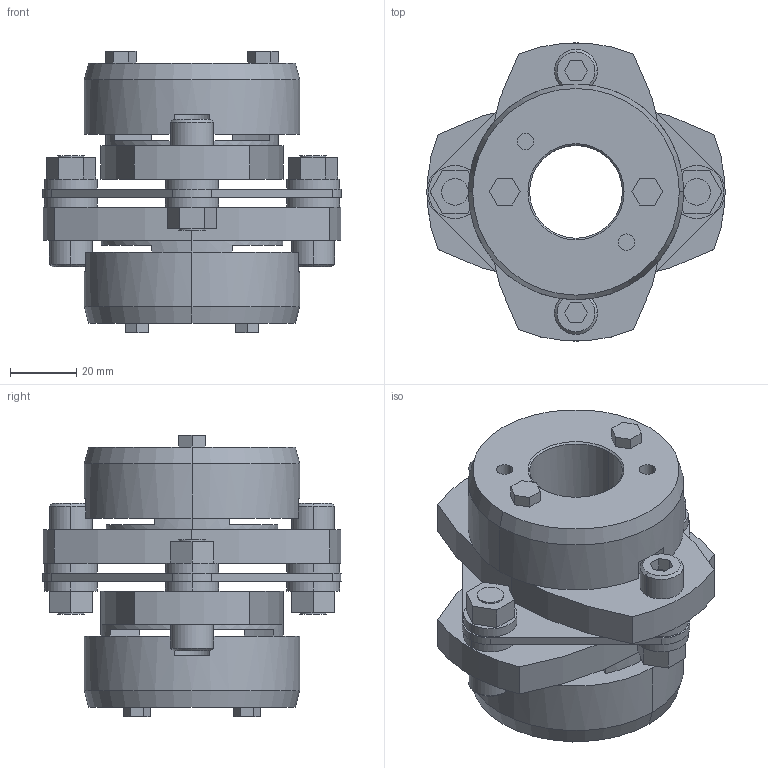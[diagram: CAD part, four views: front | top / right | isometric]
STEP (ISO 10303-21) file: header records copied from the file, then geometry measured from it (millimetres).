
FILE_DESCRIPTION((''),'2;1');
FILE_NAME('LCS-90T7-28×35.stp','2015-11-01T20:22:06',(''),(''),'AutoCAD STEP 2000i','AutoCAD 2000i',', , ');
FILE_SCHEMA(('CONFIG_CONTROL_DESIGN'));
Length unit declared in the file: millimetre
Products named in the file (13): LCS-90T7-30×35; 忣兜1; LC90T7-T035; LC90T7-T032; LC90T7-T030-1; LC90T7-T030; LC90T7-T025-1; LC90T7-T025; LC90T7-T019-1; LC90T7-T019; LC90-B019-1; LC90-B019; LCS90-ITA
Assembly tree (12 placements, depth 2):
  LCS-90T7-30×35
    忣兜1
    LC90T7-T035
    LC90T7-T032
    LC90T7-T030-1
    LC90T7-T030
    LC90T7-T025-1
    LC90T7-T025
    LC90T7-T019-1
    LC90T7-T019
    LC90-B019-1
    LC90-B019
    LCS90-ITA
Bounding box: 90 x 89.94 x 84.8 mm (x, y, z)
Volume: 202659 mm3; surface area: 53784 mm2
Topology: 1 solids, 1 shells, 241 faces, 592 edges, 386 vertices
Faces by surface type: plane 137, cylinder 84, cone 20
Entity records: 7429 total; most frequent: DIRECTION 1312, CARTESIAN_POINT 1232, ORIENTED_EDGE 1184, EDGE_CURVE 592, AXIS2_PLACEMENT_3D 466, VERTEX_POINT 386, VECTOR 380, LINE 380
